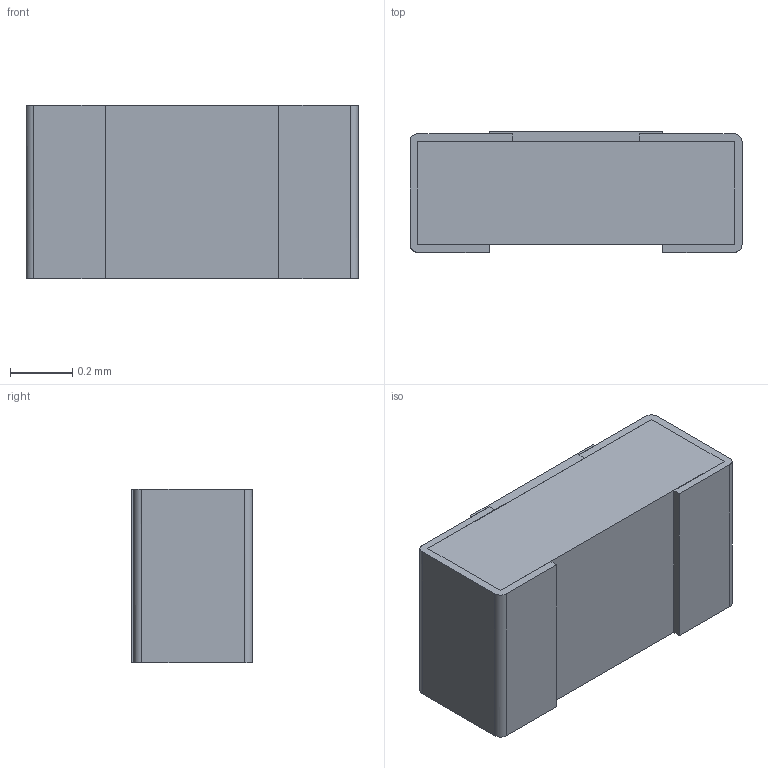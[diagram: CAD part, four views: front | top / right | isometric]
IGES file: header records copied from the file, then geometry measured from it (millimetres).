
Global section: file name: PTN0402; native system: Autodesk Inventor LT ; preprocessor: unknown; author: Neil; date: 20200108.145541; units: inch
Bounding box: 1.07 x 0.39 x 0.56 mm (x, y, z)
Volume: 0.2 mm3; surface area: 5.4 mm2
Topology: 5 solids, 5 shells, 66 faces, 168 edges, 112 vertices
Faces by surface type: bspline 66
